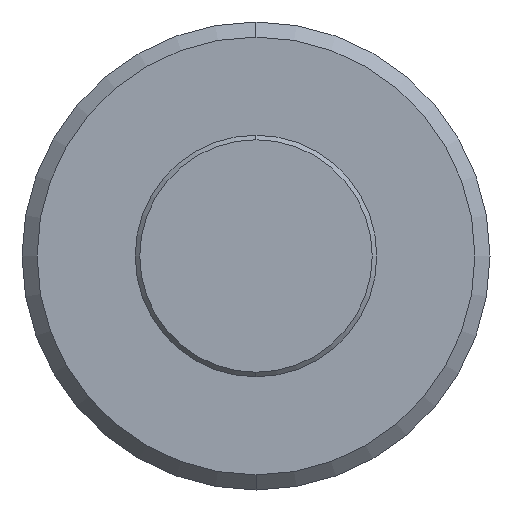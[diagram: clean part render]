
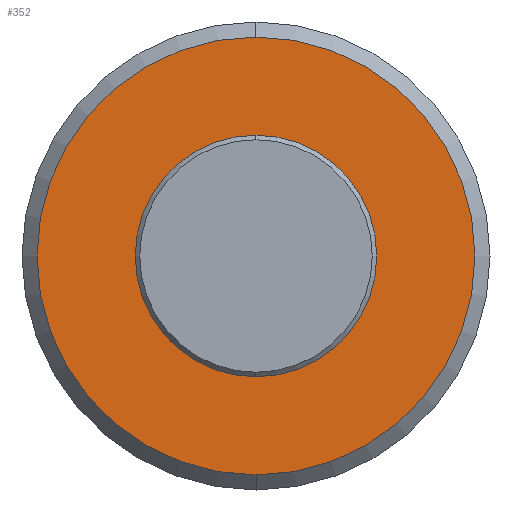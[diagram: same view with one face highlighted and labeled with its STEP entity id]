
A CAD part, left-side view. The second image highlights one B-rep face of the part: STEP entity #352.
In plain terms, the highlighted planar face has unit normal (-1, 0, 0).
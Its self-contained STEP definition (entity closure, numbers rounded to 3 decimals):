
#7 = CARTESIAN_POINT ( 'NONE',  ( -24.026, 0., 0. ) ) ;
#12 = VERTEX_POINT ( 'NONE', #187 ) ;
#13 = DIRECTION ( 'NONE',  ( 1., 0., 0. ) ) ;
#14 = VERTEX_POINT ( 'NONE', #517 ) ;
#30 = ORIENTED_EDGE ( 'NONE', *, *, #548, .T. ) ;
#32 = AXIS2_PLACEMENT_3D ( 'NONE', #386, #437, #151 ) ;
#42 = DIRECTION ( 'NONE',  ( 0., 0., 1. ) ) ;
#94 = DIRECTION ( 'NONE',  ( -1., 0., 0. ) ) ;
#113 = PLANE ( 'NONE',  #154 ) ;
#114 = DIRECTION ( 'NONE',  ( -1., 0., 0. ) ) ;
#131 = FACE_OUTER_BOUND ( 'NONE', #255, .T. ) ;
#151 = DIRECTION ( 'NONE',  ( 0., 0., 1. ) ) ;
#154 = AXIS2_PLACEMENT_3D ( 'NONE', #163, #13, #179 ) ;
#163 = CARTESIAN_POINT ( 'NONE',  ( -24.026, 8., 0. ) ) ;
#172 = EDGE_CURVE ( 'NONE', #12, #14, #282, .T. ) ;
#179 = DIRECTION ( 'NONE',  ( 0., 0., -1. ) ) ;
#187 = CARTESIAN_POINT ( 'NONE',  ( -24.026, 0., 8. ) ) ;
#231 = CIRCLE ( 'NONE', #32, 14.5 ) ;
#255 = EDGE_LOOP ( 'NONE', ( #532, #30 ) ) ;
#262 = FACE_BOUND ( 'NONE', #315, .T. ) ;
#271 = ORIENTED_EDGE ( 'NONE', *, *, #172, .F. ) ;
#282 = CIRCLE ( 'NONE', #287, 8. ) ;
#287 = AXIS2_PLACEMENT_3D ( 'NONE', #626, #338, #42 ) ;
#296 = CARTESIAN_POINT ( 'NONE',  ( -24.026, 0., -14.5 ) ) ;
#311 = DIRECTION ( 'NONE',  ( 0., 0., 1. ) ) ;
#314 = VERTEX_POINT ( 'NONE', #296 ) ;
#315 = EDGE_LOOP ( 'NONE', ( #271, #330 ) ) ;
#330 = ORIENTED_EDGE ( 'NONE', *, *, #424, .F. ) ;
#333 = CARTESIAN_POINT ( 'NONE',  ( -24.026, 0., 0. ) ) ;
#338 = DIRECTION ( 'NONE',  ( -1., 0., 0. ) ) ;
#352 = ADVANCED_FACE ( 'NONE', ( #262, #131 ), #113, .F. ) ;
#356 = CARTESIAN_POINT ( 'NONE',  ( -24.026, 0., 14.5 ) ) ;
#386 = CARTESIAN_POINT ( 'NONE',  ( -24.026, 0., 0. ) ) ;
#390 = AXIS2_PLACEMENT_3D ( 'NONE', #7, #114, #311 ) ;
#394 = DIRECTION ( 'NONE',  ( 0., 0., 1. ) ) ;
#424 = EDGE_CURVE ( 'NONE', #14, #12, #599, .T. ) ;
#437 = DIRECTION ( 'NONE',  ( -1., 0., 0. ) ) ;
#463 = CIRCLE ( 'NONE', #390, 14.5 ) ;
#482 = AXIS2_PLACEMENT_3D ( 'NONE', #333, #94, #394 ) ;
#517 = CARTESIAN_POINT ( 'NONE',  ( -24.026, 0., -8. ) ) ;
#518 = EDGE_CURVE ( 'NONE', #314, #631, #231, .T. ) ;
#532 = ORIENTED_EDGE ( 'NONE', *, *, #518, .T. ) ;
#548 = EDGE_CURVE ( 'NONE', #631, #314, #463, .T. ) ;
#599 = CIRCLE ( 'NONE', #482, 8. ) ;
#626 = CARTESIAN_POINT ( 'NONE',  ( -24.026, 0., 0. ) ) ;
#631 = VERTEX_POINT ( 'NONE', #356 ) ;
